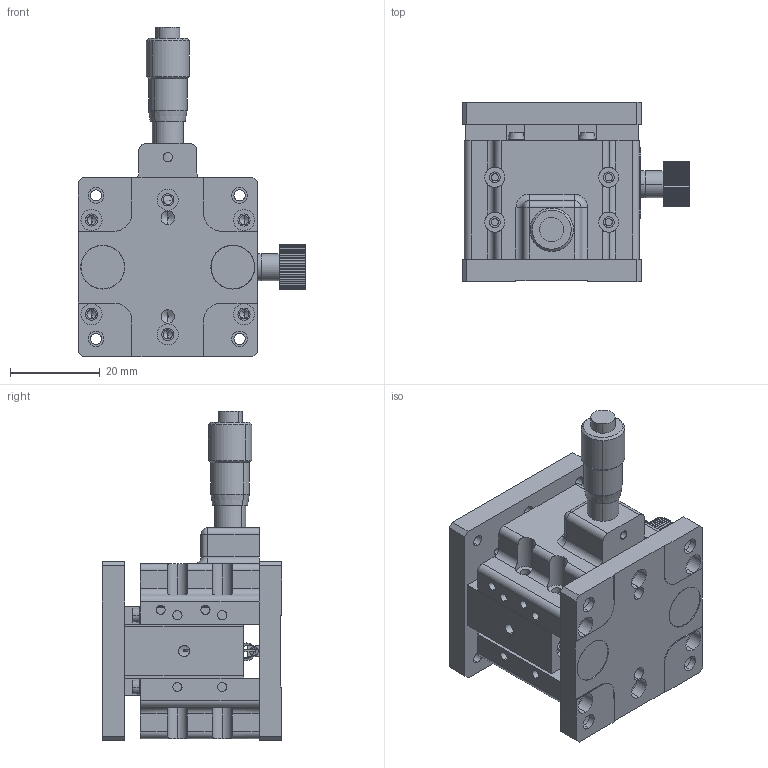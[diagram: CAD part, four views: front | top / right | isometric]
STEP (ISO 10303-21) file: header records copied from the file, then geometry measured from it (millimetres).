
FILE_DESCRIPTION (( 'STEP AP203' ), '1' );
FILE_NAME ('JCHZ-40.STEP', '2019-02-08T05:46:12', ( 'Windows 餌辨濠' ), ( '' ), 'SwSTEP 2.0', 'SolidWorks 2018', '' );
FILE_SCHEMA (( 'CONFIG_CONTROL_DESIGN' ));
Length unit declared in the file: millimetre
Products named in the file (17): FC-PN-4X17; FB-JCHZ40-BD-02-02; FC-SP-4X8.5; FB-JCHZ40-BD-03; FC-BA-3; FC-JCHZ-SB-02; FC-JCHZ-SB-01; JV1-20-5; JCHZ-40; FB-JCHZ40-BD-01; FC-PL-16X16; FB-JCHZ40-BD-02-01; FB-JCHZ-BK-C-01; JALB-71-R; FC-NB-10; FC-SJ-3; FB-JCHZ40-BD-02-03
Assembly tree (27 placements, depth 2):
  JCHZ-40
    FB-JCHZ40-BD-02-02
    FB-JCHZ40-BD-02-01
    JV1-20-5  x8
    FB-JCHZ40-BD-02-03
    FB-JCHZ40-BD-01
    FB-JCHZ40-BD-03
    FB-JCHZ-BK-C-01
    FC-BA-3  x2
    FC-PN-4X17
    FC-JCHZ-SB-01  x2
    FC-PL-16X16
    FC-NB-10
    JALB-71-R
    FC-SJ-3
    FC-SP-4X8.5  x2
    FC-JCHZ-SB-02  x2
Bounding box: 50.8 x 40 x 73.5 mm (x, y, z)
Volume: 46042.8 mm3; surface area: 32095.4 mm2
Topology: 27 solids, 27 shells, 1648 faces, 4258 edges, 2694 vertices
Faces by surface type: plane 815, cylinder 729, cone 88, sphere 10, torus 6
Entity records: 29046 total; most frequent: CARTESIAN_POINT 5190, DIRECTION 4875, ORIENTED_EDGE 4346, EDGE_CURVE 2173, AXIS2_PLACEMENT_3D 1881, VERTEX_POINT 1420, VECTOR 1113, LINE 1113
